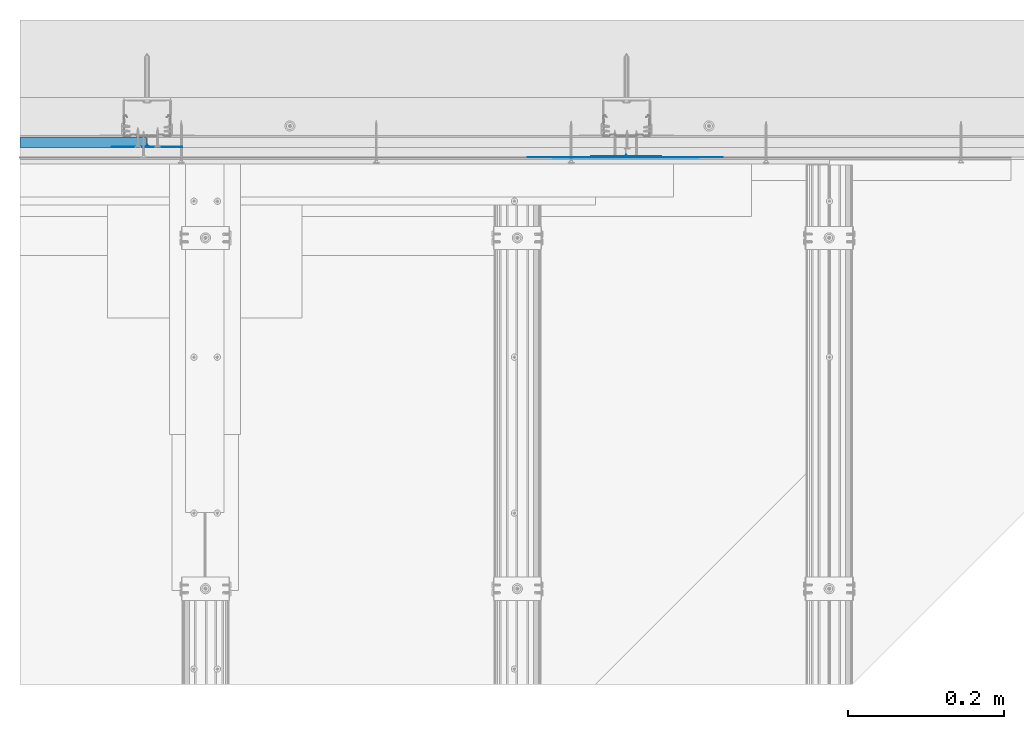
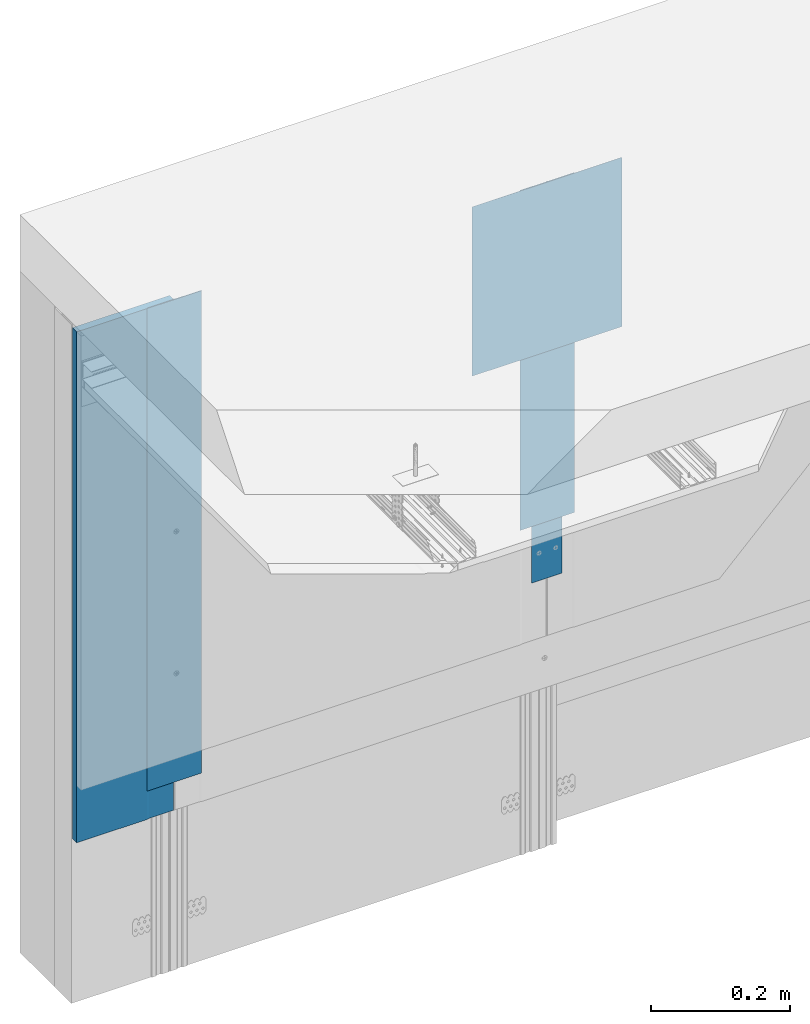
# One storey, part 32 of 62: 5 walls.
"""IFC2X3 building model written with IfcOpenShell, lengths in millimetres."""

from ifc_helpers import new_model, entity, si_unit, converted_unit, direction, frame, origin, origin_with_axes, place, context, project, spatial, faceted_brep, element, save


model = new_model("IFC2X3")

# Units and contexts
model_context = context("Model", 3, precision=1e-05, world=origin(), true_north=direction((0.0, 1.0, 0.0)))
ifc_project = project(units=[si_unit("LENGTHUNIT", "METRE", prefix="MILLI"), si_unit("AREAUNIT", "SQUARE_METRE"), si_unit("VOLUMEUNIT", "CUBIC_METRE"), converted_unit("PLANEANGLEUNIT", "DEGREE", entity("IfcPlaneAngleMeasure", 0.01745), si_unit("PLANEANGLEUNIT", "RADIAN"), dimensions=[0, 0, 0, 0, 0, 0, 0]), si_unit("SOLIDANGLEUNIT", "STERADIAN"), si_unit("MASSUNIT", "GRAM"), si_unit("TIMEUNIT", "SECOND"), si_unit("THERMODYNAMICTEMPERATUREUNIT", "DEGREE_CELSIUS"), si_unit("LUMINOUSINTENSITYUNIT", "LUMEN")], contexts=[model_context])

# Site, building, storey
site_placement = place(None, origin_with_axes())
site = spatial("IfcSite", under=ifc_project, at=site_placement, Name="Default Site", CompositionType="ELEMENT")
building_placement = place(site_placement, origin_with_axes())
building = spatial("IfcBuilding", under=site, at=building_placement, Name="Default Building", CompositionType="ELEMENT")
storey_placement = place(building_placement, origin_with_axes())
storey = spatial("IfcBuildingStorey", under=building, at=storey_placement, Name="Default Building Storey", CompositionType="ELEMENT", Elevation=0.0)

# Walls
wall_1_placement = place(storey_placement, frame((3638.965586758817, 5336.736799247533, 1386.260066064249), z_axis=(0.0, 0.0, -1.0), x_axis=(1.0, 0.0, 0.0)))
element("IfcWall", 1, at=wall_1_placement, inside=storey, Name="Taśma spoinowa RIGIPS", context=model_context, shape_type="Brep", body=[
    faceted_brep([(-712.4592163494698, 3389.356721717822, 700.7999999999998), (-712.4592163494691, 3389.856721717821, 700.7999999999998), (-762.4592163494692, 3389.856721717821, 700.7999999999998), (-762.45921634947, 3389.35672171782, 700.7999999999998), (-712.4592163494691, 3389.856721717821, 2.449996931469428), (-712.4592163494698, 3389.35672171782, 2.449996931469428), (-762.45921634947, 3389.35672171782, 2.449996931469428), (-762.4592163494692, 3389.856721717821, 2.449996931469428)], [[[0, 1, 2, 3]], [[4, 5, 6, 7]], [[5, 0, 3, 6]], [[6, 3, 2, 7]], [[7, 2, 1, 4]], [[4, 1, 0, 5]]]),
])
wall_2_placement = place(storey_placement, frame((2287.429648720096, 1971.180077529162, 233.8084874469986), z_axis=(0.0, 0.0, -1.0), x_axis=(-1.0, 0.0, 0.0)))
element("IfcWall", 2, at=wall_2_placement, inside=storey, Name="Płyta gipsowo-kartonowa RIGIPS PRO (4PRO™)", context=model_context, shape_type="Brep", body=[
    faceted_brep([(162.4045152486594, -12.4999999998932, -250.0000000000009), (162.4045152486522, 1.082867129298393e-10, -250.0000000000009), (162.4045152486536, 1.079257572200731e-10, -1150.001581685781), (162.4045152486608, -12.49999999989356, -1150.001581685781), (0.0, 0.0, -249.9999999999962), (44.99999999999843, -12.50000000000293, -249.9999999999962), (40.99999999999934, -11.50000000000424, -249.9999999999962), (0.9999999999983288, -11.5000000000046, -249.9999999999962), (0.7411809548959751, -11.46592582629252, -249.9999999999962), (0.4999999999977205, -11.3660254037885, -249.9999999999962), (0.2928932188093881, -11.20710678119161, -249.9999999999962), (0.1339745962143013, -11.00000000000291, -249.9999999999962), (0.03407417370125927, -10.7588190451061, -249.9999999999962), (-2.887645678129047e-12, -10.50000000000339, -249.9999999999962), (44.99999999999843, -12.50000000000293, -1150.001581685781), (40.99999999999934, -11.50000000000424, -1150.001581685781), (0.9999999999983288, -11.5000000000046, -1150.001581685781), (0.7411809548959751, -11.46592582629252, -1150.001581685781), (0.4999999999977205, -11.3660254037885, -1150.001581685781), (0.2928932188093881, -11.20710678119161, -1150.001581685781), (0.1339745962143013, -11.00000000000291, -1150.001581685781), (0.03407417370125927, -10.7588190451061, -1150.001581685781), (-2.887645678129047e-12, -10.50000000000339, -1150.001581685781), (0.0, 0.0, -1150.001581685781)], [[[0, 1, 2, 3]], [[4, 1, 0, 5, 6, 7, 8, 9, 10, 11, 12, 13]], [[0, 3, 14, 5]], [[6, 5, 14, 15]], [[7, 6, 15, 16]], [[8, 7, 16, 17]], [[9, 8, 17, 18]], [[10, 9, 18, 19]], [[11, 10, 19, 20]], [[12, 11, 20, 21]], [[13, 12, 21, 22]], [[4, 13, 22, 23]], [[23, 2, 1, 4]], [[14, 3, 2, 23, 22, 21, 20, 19, 18, 17, 16, 15]]]),
])
wall_3_placement = place(storey_placement, frame((1550.970432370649, 5349.236799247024, 1134.608487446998), z_axis=(0.0, 0.0, -1.0), x_axis=(-1.0, 0.0, 0.0)))
element("IfcWall", 3, at=wall_3_placement, inside=storey, Name="Dedykowana masa szpachlowa Rigips - konstrukcyjna", context=model_context, shape_type="Brep", body=[
    faceted_brep([(-737.4838396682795, -3387.669590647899, 600.7999999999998), (-737.4592163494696, -3387.356721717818, 600.7999999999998), (-737.4345930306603, -3387.669590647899, 600.7999999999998), (-737.3613293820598, -3387.974755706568, 600.7999999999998), (-737.2412293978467, -3388.264702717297, 600.7999999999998), (-737.0772503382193, -3388.532292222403, 600.7999999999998), (-736.8734299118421, -3388.770935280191, 600.7999999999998), (-736.6347868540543, -3388.974755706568, 600.7999999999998), (-736.3671973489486, -3389.138734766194, 600.7999999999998), (-736.0772503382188, -3389.258834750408, 600.7999999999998), (-735.7720852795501, -3389.332098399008, 600.7999999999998), (-735.4592163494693, -3389.356721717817, 600.7999999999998), (-692.4592163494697, -3389.356721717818, 600.7999999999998), (-691.4592163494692, -3390.556721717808, 600.7999999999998), (-782.4592163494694, -3390.556721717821, 600.7999999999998), (-782.4592163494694, -3389.356721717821, 600.7999999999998), (-739.4592163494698, -3389.356721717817, 600.7999999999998), (-739.146347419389, -3389.332098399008, 600.7999999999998), (-738.8411823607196, -3389.258834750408, 600.7999999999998), (-738.5512353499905, -3389.138734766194, 600.7999999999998), (-738.2836458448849, -3388.974755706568, 600.7999999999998), (-738.045002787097, -3388.770935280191, 600.7999999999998), (-737.8411823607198, -3388.532292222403, 600.7999999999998), (-737.6772033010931, -3388.264702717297, 600.7999999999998), (-737.5571033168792, -3387.974755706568, 600.7999999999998), (-691.4592163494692, -3390.556721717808, -249.2015816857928), (-692.4592163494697, -3389.356721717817, -249.2015816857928), (-735.4592163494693, -3389.356721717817, -249.2015816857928), (-735.7720852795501, -3389.332098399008, -249.2015816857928), (-736.0772503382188, -3389.258834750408, -249.2015816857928), (-736.3671973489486, -3389.138734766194, -249.2015816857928), (-736.6347868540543, -3388.974755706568, -249.2015816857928), (-736.8734299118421, -3388.77093528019, -249.2015816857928), (-737.0772503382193, -3388.532292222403, -249.2015816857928), (-737.2412293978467, -3388.264702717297, -249.2015816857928), (-737.3613293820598, -3387.974755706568, -249.2015816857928), (-737.4345930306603, -3387.669590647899, -249.2015816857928), (-737.4592163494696, -3387.356721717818, -249.2015816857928), (-737.4838396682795, -3387.669590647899, -249.2015816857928), (-737.5571033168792, -3387.974755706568, -249.2015816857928), (-737.6772033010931, -3388.264702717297, -249.2015816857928), (-737.8411823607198, -3388.532292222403, -249.2015816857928), (-738.045002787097, -3388.77093528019, -249.2015816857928), (-738.2836458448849, -3388.974755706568, -249.2015816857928), (-738.5512353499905, -3389.138734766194, -249.2015816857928), (-738.8411823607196, -3389.258834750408, -249.2015816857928), (-739.146347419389, -3389.332098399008, -249.2015816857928), (-739.4592163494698, -3389.356721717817, -249.2015816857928), (-782.4592163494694, -3389.356721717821, -249.2015816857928), (-782.4592163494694, -3390.556721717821, -249.2015816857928)], [[[0, 1, 2, 3, 4, 5, 6, 7, 8, 9, 10, 11, 12, 13, 14, 15, 16, 17, 18, 19, 20, 21, 22, 23, 24]], [[25, 26, 27, 28, 29, 30, 31, 32, 33, 34, 35, 36, 37, 38, 39, 40, 41, 42, 43, 44, 45, 46, 47, 48, 49]], [[26, 12, 11, 27]], [[10, 9, 29, 28]], [[28, 27, 11, 10]], [[8, 30, 29, 9]], [[7, 6, 32, 31]], [[31, 30, 8, 7]], [[5, 4, 34, 33]], [[33, 32, 6, 5]], [[3, 35, 34, 4]], [[2, 1, 37, 36]], [[36, 35, 3, 2]], [[0, 24, 39, 38]], [[38, 37, 1, 0]], [[23, 40, 39, 24]], [[22, 21, 42, 41]], [[41, 40, 23, 22]], [[20, 19, 44, 43]], [[43, 42, 21, 20]], [[18, 45, 44, 19]], [[17, 16, 47, 46]], [[46, 45, 18, 17]], [[47, 16, 15, 48]], [[48, 15, 14, 49]], [[49, 14, 13, 25]], [[25, 13, 12, 26]]]),
])
wall_4_placement = place(storey_placement, frame((3638.965586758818, 3641.258438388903, 1386.260066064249), z_axis=(0.0, 0.0, -1.0), x_axis=(1.0, 0.0, 0.0)))
element("IfcWall", 4, at=wall_4_placement, inside=storey, Name="Dedykowana masa szpachlowa Rigips - wykończeniowa", context=model_context, shape_type="Brep", body=[
    faceted_brep([(-612.459216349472, 1695.27836085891, 2.449996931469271), (-862.459216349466, 1695.278360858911, 2.449996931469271), (-812.4612643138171, 1695.598358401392, 2.449996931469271), (-762.4602403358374, 1695.758360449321, 2.449996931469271), (-712.458192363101, 1695.75836044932, 2.449996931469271), (-662.4571683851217, 1695.59835840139, 2.449996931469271), (-762.4602403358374, 1695.758360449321, 300.8000000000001), (-812.4612643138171, 1695.598358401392, 300.8000000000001), (-862.459216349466, 1695.278360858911, 300.8000000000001), (-612.459216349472, 1695.278360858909, 300.8000000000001), (-662.4571683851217, 1695.59835840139, 300.8000000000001), (-712.458192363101, 1695.75836044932, 300.8000000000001)], [[[0, 1, 2, 3, 4, 5]], [[6, 7, 8, 9, 10, 11]], [[9, 0, 5, 10]], [[10, 5, 4, 11]], [[11, 4, 3, 6]], [[6, 3, 2, 7]], [[1, 8, 7, 2]], [[0, 9, 8, 1]]]),
])
wall_5_placement = place(storey_placement, frame((2165.047154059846, 5336.736799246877, 1386.260066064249), z_axis=(0.0, 0.0, -1.0), x_axis=(-1.0, 0.0, 0.0)))
element("IfcWall", 5, at=wall_5_placement, inside=storey, Name="Dedykowana masa szpachlowa Rigips - konstrukcyjna", context=model_context, shape_type="Brep", body=[
    faceted_brep([(-737.4838396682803, -3387.6695906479, 600.7999999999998), (-737.4592163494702, -3387.356721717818, 600.7999999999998), (-737.434593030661, -3387.6695906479, 600.7999999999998), (-737.3613293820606, -3387.974755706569, 600.7999999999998), (-737.2412293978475, -3388.264702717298, 600.7999999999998), (-737.07725033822, -3388.532292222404, 600.7999999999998), (-736.8734299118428, -3388.770935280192, 600.7999999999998), (-736.6347868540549, -3388.974755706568, 600.7999999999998), (-736.3671973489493, -3389.138734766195, 600.7999999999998), (-736.0772503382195, -3389.258834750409, 600.7999999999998), (-735.7720852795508, -3389.332098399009, 600.7999999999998), (-735.45921634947, -3389.356721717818, 600.7999999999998), (-692.4592163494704, -3389.356721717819, 600.7999999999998), (-691.4592163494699, -3390.556721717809, 600.7999999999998), (-782.4592163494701, -3390.556721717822, 600.7999999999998), (-782.4592163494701, -3389.356721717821, 600.7999999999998), (-739.4592163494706, -3389.356721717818, 600.7999999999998), (-739.1463474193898, -3389.332098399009, 600.7999999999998), (-738.8411823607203, -3389.258834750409, 600.7999999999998), (-738.5512353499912, -3389.138734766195, 600.7999999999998), (-738.2836458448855, -3388.974755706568, 600.7999999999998), (-738.0450027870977, -3388.770935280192, 600.7999999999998), (-737.8411823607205, -3388.532292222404, 600.7999999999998), (-737.6772033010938, -3388.264702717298, 600.7999999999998), (-737.55710331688, -3387.974755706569, 600.7999999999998), (-691.4592163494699, -3390.556721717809, 2.449996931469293), (-692.4592163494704, -3389.356721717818, 2.449996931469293), (-735.45921634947, -3389.356721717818, 2.449996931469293), (-735.7720852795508, -3389.332098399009, 2.449996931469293), (-736.0772503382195, -3389.258834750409, 2.449996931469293), (-736.3671973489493, -3389.138734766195, 2.449996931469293), (-736.6347868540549, -3388.974755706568, 2.449996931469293), (-736.8734299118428, -3388.770935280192, 2.449996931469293), (-737.07725033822, -3388.532292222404, 2.449996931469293), (-737.2412293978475, -3388.264702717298, 2.449996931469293), (-737.3613293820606, -3387.974755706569, 2.449996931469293), (-737.434593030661, -3387.6695906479, 2.449996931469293), (-737.4592163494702, -3387.356721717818, 2.449996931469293), (-737.4838396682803, -3387.6695906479, 2.449996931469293), (-737.55710331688, -3387.974755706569, 2.449996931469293), (-737.6772033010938, -3388.264702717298, 2.449996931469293), (-737.8411823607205, -3388.532292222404, 2.449996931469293), (-738.0450027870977, -3388.770935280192, 2.449996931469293), (-738.2836458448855, -3388.974755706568, 2.449996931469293), (-738.5512353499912, -3389.138734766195, 2.449996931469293), (-738.8411823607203, -3389.258834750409, 2.449996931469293), (-739.1463474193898, -3389.332098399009, 2.449996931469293), (-739.4592163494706, -3389.356721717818, 2.449996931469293), (-782.4592163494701, -3389.356721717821, 2.449996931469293), (-782.4592163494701, -3390.556721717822, 2.449996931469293)], [[[0, 1, 2, 3, 4, 5, 6, 7, 8, 9, 10, 11, 12, 13, 14, 15, 16, 17, 18, 19, 20, 21, 22, 23, 24]], [[25, 26, 27, 28, 29, 30, 31, 32, 33, 34, 35, 36, 37, 38, 39, 40, 41, 42, 43, 44, 45, 46, 47, 48, 49]], [[26, 12, 11, 27]], [[10, 9, 29, 28]], [[28, 27, 11, 10]], [[8, 30, 29, 9]], [[7, 6, 32, 31]], [[31, 30, 8, 7]], [[5, 4, 34, 33]], [[33, 32, 6, 5]], [[3, 35, 34, 4]], [[2, 1, 37, 36]], [[36, 35, 3, 2]], [[0, 24, 39, 38]], [[38, 37, 1, 0]], [[23, 40, 39, 24]], [[22, 21, 42, 41]], [[41, 40, 23, 22]], [[20, 19, 44, 43]], [[43, 42, 21, 20]], [[18, 45, 44, 19]], [[17, 16, 47, 46]], [[46, 45, 18, 17]], [[47, 16, 15, 48]], [[48, 15, 14, 49]], [[49, 14, 13, 25]], [[25, 13, 12, 26]]]),
])

save(model, "model.ifc")
